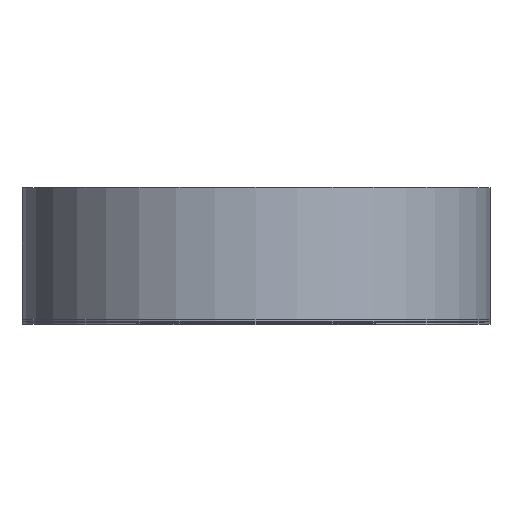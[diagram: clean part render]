
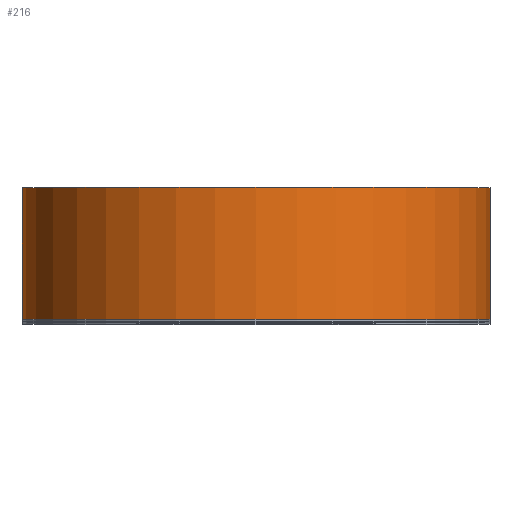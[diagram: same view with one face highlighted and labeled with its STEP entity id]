
A CAD part, top view. The second image highlights one B-rep face of the part: STEP entity #216.
In plain terms, the highlighted cylindrical face has radius 6.39 mm (diameter 12.78 mm), a full revolution.
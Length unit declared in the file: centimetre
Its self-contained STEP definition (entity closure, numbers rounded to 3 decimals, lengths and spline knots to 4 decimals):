
#45=FACE_BOUND('',#96,.T.);
#63=FACE_OUTER_BOUND('',#95,.T.);
#95=EDGE_LOOP('',(#185));
#96=EDGE_LOOP('',(#186));
#117=CIRCLE('',#252,0.639);
#118=CIRCLE('',#254,0.639);
#135=VERTEX_POINT('',#377);
#136=VERTEX_POINT('',#380);
#153=EDGE_CURVE('',#135,#135,#117,.T.);
#154=EDGE_CURVE('',#136,#136,#118,.T.);
#185=ORIENTED_EDGE('',*,*,#153,.T.);
#186=ORIENTED_EDGE('',*,*,#154,.F.);
#200=CYLINDRICAL_SURFACE('',#253,0.639);
#216=ADVANCED_FACE('',(#63,#45),#200,.T.);
#252=AXIS2_PLACEMENT_3D('',#378,#318,#319);
#253=AXIS2_PLACEMENT_3D('',#379,#320,#321);
#254=AXIS2_PLACEMENT_3D('',#381,#322,#323);
#318=DIRECTION('center_axis',(0.,1.,0.));
#319=DIRECTION('ref_axis',(1.,0.,0.));
#320=DIRECTION('center_axis',(0.,1.,0.));
#321=DIRECTION('ref_axis',(0.,0.,1.));
#322=DIRECTION('center_axis',(0.,1.,0.));
#323=DIRECTION('ref_axis',(1.,0.,0.));
#377=CARTESIAN_POINT('',(0.,-0.201,8.188));
#378=CARTESIAN_POINT('Origin',(0.,-0.201,7.549));
#379=CARTESIAN_POINT('Origin',(0.,-0.021,7.549));
#380=CARTESIAN_POINT('',(0.,0.159,8.188));
#381=CARTESIAN_POINT('Origin',(0.,0.159,7.549));
